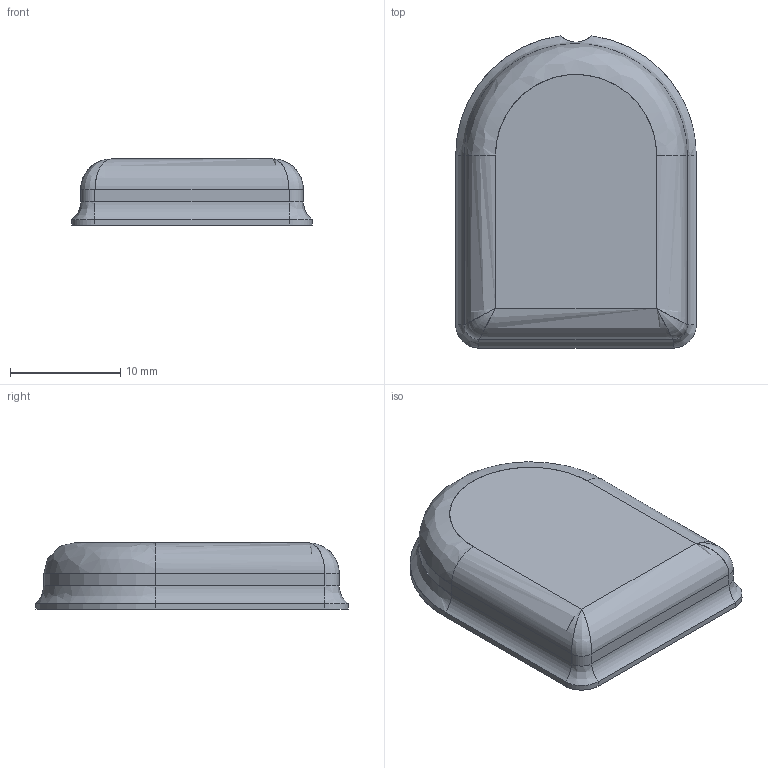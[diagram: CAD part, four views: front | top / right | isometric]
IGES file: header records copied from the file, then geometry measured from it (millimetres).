
Start section: SolidWorks IGES file using analytic representation for surfaces
Global section: file name: Z:\Desktop\DigitSensor\813Deisgn\Dot\Cylinder1_outer0.8.IGS; native system: SolidWorks 2023; preprocessor: SolidWorks 2023; author: qingzheng; date: 240813.144944; units: millimetre
Bounding box: 21.8 x 28.31 x 6 mm (x, y, z)
Surface area: 1831.2 mm2 (no closed solid volume)
Topology: 0 solids, 0 shells, 56 faces, 550 edges, 546 vertices
Faces by surface type: revolution 35, bspline 21
